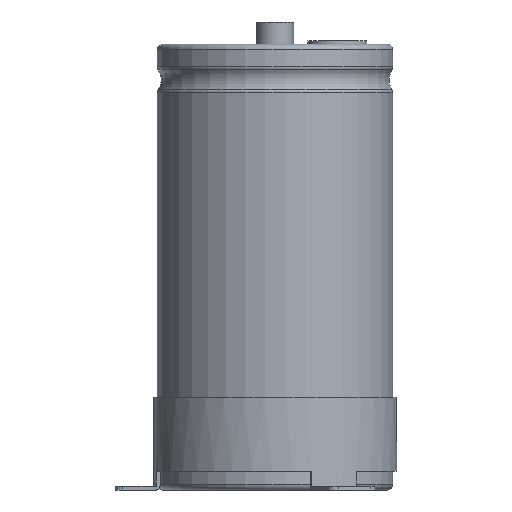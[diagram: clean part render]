
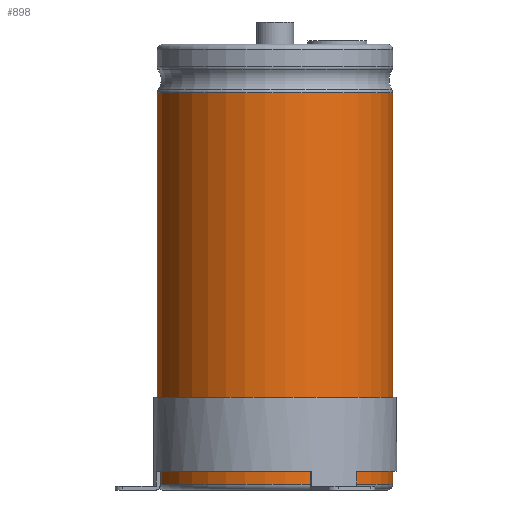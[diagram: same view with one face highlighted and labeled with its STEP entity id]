
A CAD part, front view. The second image highlights one B-rep face of the part: STEP entity #898.
In plain terms, the highlighted cylindrical face has radius 31.75 mm (diameter 63.5 mm), a partial arc.
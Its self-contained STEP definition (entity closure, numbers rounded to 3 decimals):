
#898=ADVANCED_FACE('',(#1199),#1037,.T.);
#1037=CYLINDRICAL_SURFACE('',#4842,31.75);
#1199=FACE_OUTER_BOUND('',#1450,.T.);
#1450=EDGE_LOOP('',(#2666,#2667,#2668,#2669));
#1741=CIRCLE('',#4839,31.75);
#1742=CIRCLE('',#4841,31.75);
#2666=ORIENTED_EDGE('',*,*,#3888,.T.);
#2667=ORIENTED_EDGE('',*,*,#3889,.T.);
#2668=ORIENTED_EDGE('',*,*,#3890,.F.);
#2669=ORIENTED_EDGE('',*,*,#3891,.F.);
#3337=VERTEX_POINT('',#7875);
#3339=VERTEX_POINT('',#7879);
#3340=VERTEX_POINT('',#7883);
#3341=VERTEX_POINT('',#7885);
#3888=EDGE_CURVE('',#3337,#3339,#1741,.T.);
#3889=EDGE_CURVE('',#3339,#3340,#4231,.T.);
#3890=EDGE_CURVE('',#3341,#3340,#1742,.T.);
#3891=EDGE_CURVE('',#3337,#3341,#4232,.T.);
#4231=LINE('',#7882,#4445);
#4232=LINE('',#7886,#4446);
#4445=VECTOR('',#5840,1.);
#4446=VECTOR('',#5843,1.);
#4839=AXIS2_PLACEMENT_3D('',#7880,#5836,#5837);
#4841=AXIS2_PLACEMENT_3D('',#7884,#5841,#5842);
#4842=AXIS2_PLACEMENT_3D('',#7887,#5844,#5845);
#5836=DIRECTION('',(0.,0.,-1.));
#5837=DIRECTION('',(0.,1.,0.));
#5840=DIRECTION('',(0.,0.,-1.));
#5841=DIRECTION('',(0.,0.,-1.));
#5842=DIRECTION('',(0.,1.,0.));
#5843=DIRECTION('',(0.,0.,-1.));
#5844=DIRECTION('',(0.,0.,-1.));
#5845=DIRECTION('',(0.,1.,0.));
#7875=CARTESIAN_POINT('',(4.007,31.496,106.9));
#7879=CARTESIAN_POINT('',(-4.007,31.496,106.9));
#7880=CARTESIAN_POINT('',(0.,0.,106.9));
#7882=CARTESIAN_POINT('',(-4.007,31.496,106.9));
#7883=CARTESIAN_POINT('',(-4.007,31.496,1.5));
#7884=CARTESIAN_POINT('',(0.,0.,1.5));
#7885=CARTESIAN_POINT('',(4.007,31.496,1.5));
#7886=CARTESIAN_POINT('',(4.007,31.496,106.9));
#7887=CARTESIAN_POINT('',(0.,0.,0.));
